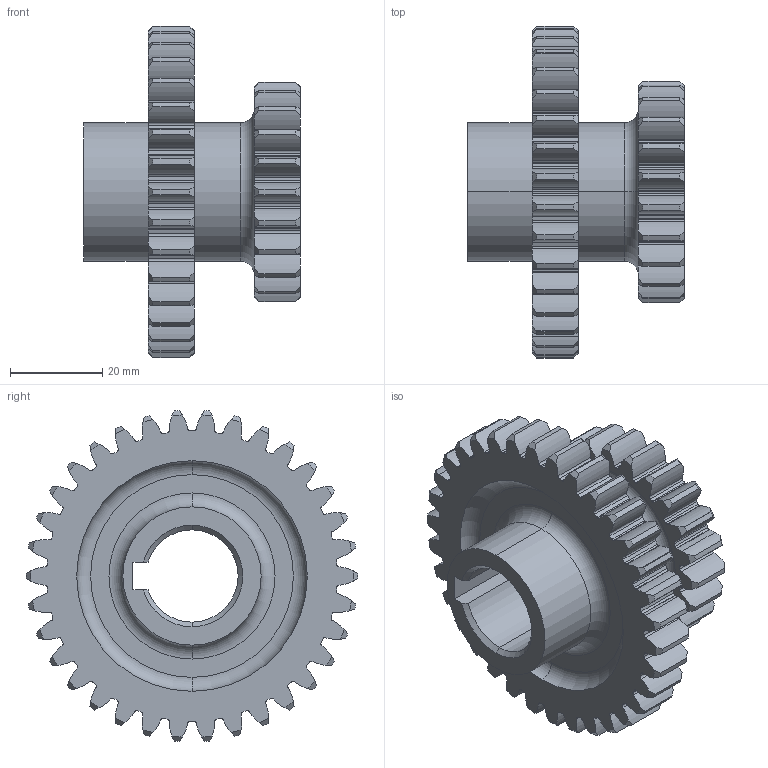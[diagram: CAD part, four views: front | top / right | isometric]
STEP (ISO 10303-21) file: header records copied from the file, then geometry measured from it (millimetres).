
FILE_DESCRIPTION (( 'STEP AP203' ), '1' );
FILE_NAME ('390628E1005-½ºÆÛ±â¾î.STEP', '2019-06-27T09:18:56', ( '321' ), ( '' ), 'SwSTEP 2.0', 'SolidWorks 2013', '' );
FILE_SCHEMA (( 'CONFIG_CONTROL_DESIGN' ));
Length unit declared in the file: millimetre
Products named in the file (1): 390628E1005-蝶ぷ晦橫
Bounding box: 47 x 72 x 71.79 mm (x, y, z)
Volume: 47906.4 mm3; surface area: 21229.1 mm2
Topology: 1 solids, 1 shells, 519 faces, 1526 edges, 1014 vertices
Faces by surface type: cylinder 381, cone 118, torus 10, plane 10
Entity records: 18093 total; most frequent: CARTESIAN_POINT 3768, DIRECTION 3226, ORIENTED_EDGE 3052, EDGE_CURVE 1526, AXIS2_PLACEMENT_3D 1416, VERTEX_POINT 1014, CIRCLE 896, EDGE_LOOP 526
